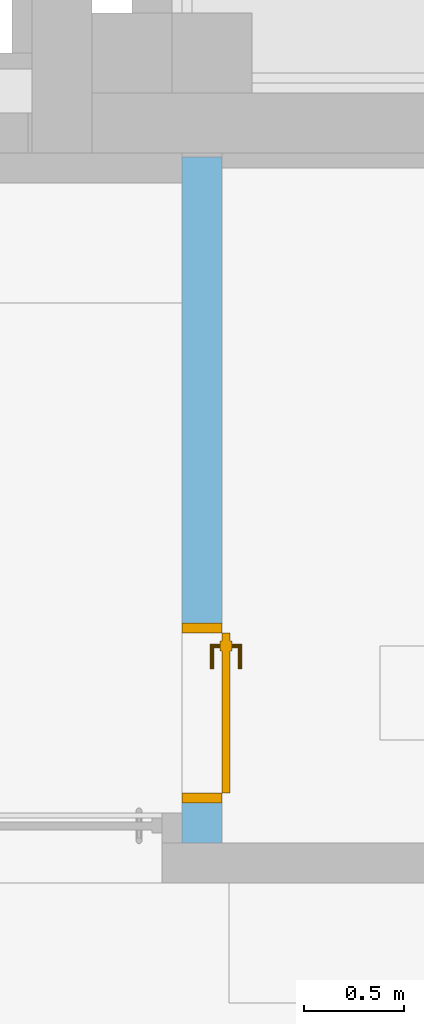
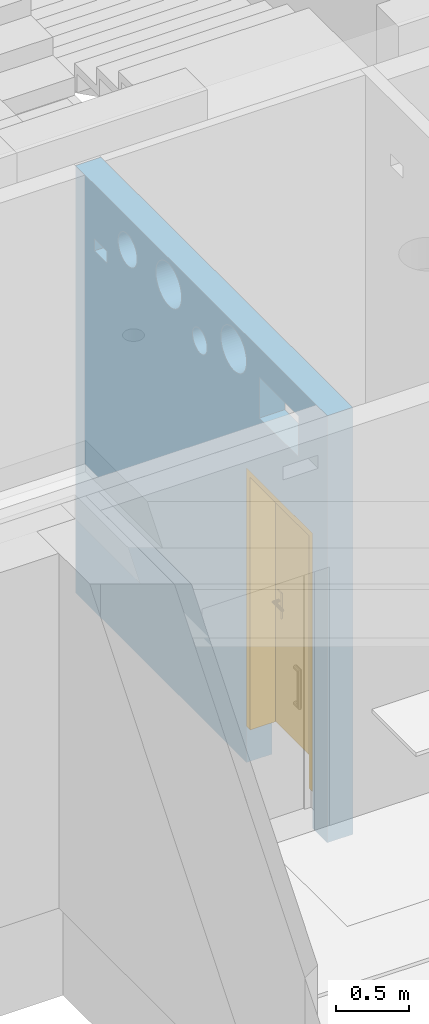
# One storey, part 69 of 140: 1 door, 7 openings, plus 1 element that does not belong to this part.
"""IFC4 building model written with IfcOpenShell, lengths in metres."""

from ifc_helpers import new_model, entity, si_unit, converted_unit, derived_unit, frame, frame_2d, origin, origin_with_axes, place, context, subcontext, project, spatial, polyline, rectangle, outline, extrude, closed_shell, open_shell, surface_model, source, transform, mapped, material, layer, layer_set, layer_usage, type_object, element, fill, save


model = new_model("IFC4")

# Units and contexts
model_context = context("Model", 3, precision=1e-05, world=origin())
body_context = subcontext(model_context, "Body", "Model", "MODEL_VIEW")
ifc_project = project(units=[si_unit("LENGTHUNIT", "METRE"), si_unit("AREAUNIT", "SQUARE_METRE"), si_unit("VOLUMEUNIT", "CUBIC_METRE"), si_unit("MASSUNIT", "GRAM", prefix="KILO"), converted_unit("PLANEANGLEUNIT", "DEGREE", entity("IfcPlaneAngleMeasure", 0.0174532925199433), si_unit("PLANEANGLEUNIT", "RADIAN"), dimensions=[0, 0, 0, 0, 0, 0, 0]), derived_unit("THERMALTRANSMITTANCEUNIT", [(si_unit("POWERUNIT", "WATT"), 1), (si_unit("THERMODYNAMICTEMPERATUREUNIT", "KELVIN"), -1), (si_unit("LENGTHUNIT", "METRE"), -2)]), derived_unit("VOLUMETRICFLOWRATEUNIT", [(si_unit("LENGTHUNIT", "METRE"), 3), (converted_unit("TIMEUNIT", "hour", entity("IfcTimeMeasure", 3600.0), si_unit("TIMEUNIT", "SECOND"), dimensions=[0, 0, 1, 0, 0, 0, 0]), -1), (si_unit("LENGTHUNIT", "METRE"), -1)])], contexts=[model_context])

# Site, building, storey
site_placement = place(None, origin())
site = spatial("IfcSite", under=ifc_project, at=site_placement, Name="3. ASŘ", CompositionType="ELEMENT")
building_placement = place(site_placement, origin())
building = spatial("IfcBuilding", under=site, at=building_placement, Name="Pavilon C", CompositionType="ELEMENT")
storey_placement = place(building_placement, origin())
storey = spatial("IfcBuildingStorey", under=building, at=storey_placement, Name="Půdorys 1.NP", CompositionType="ELEMENT", Elevation=0.0)

# Wall, openings, door
ifc_material = material(Name="ZELEZOBETONOVÁ KCE")
ifc_layer = layer(ifc_material, 0.2)
ifc_layer_set = layer_set([ifc_layer])
ifc_layer_usage = layer_usage(ifc_layer_set, "AXIS2", "POSITIVE", 0.0)
wall_placement = place(storey_placement, frame((31.3, -7.95000000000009, -0.3), z_axis=(0.0, 0.0, 1.0), x_axis=(-1.06063522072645e-15, 1.0, 0.0)))
wall = element("IfcWall", 1, at=wall_placement, inside=storey, material=ifc_layer_usage, Name="ZELEZOBETONOVÁ KCE", context=body_context, shape_type="SweptSolid", body=[
    extrude(rectangle(XDim=3.43, YDim=0.2, at=frame_2d((1.715, 0.1), x_axis=(1.0, 0.0))), origin_with_axes(), (0.0, 0.0, 1.0), 3.55),
])
opening_1_placement = place(wall_placement, frame((0.199999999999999, -2.12127044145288e-16, 0.0), z_axis=(9.9475983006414e-16, 1.0, 0.0), x_axis=(0.0, 0.0, 1.0)))
opening_1 = element("IfcOpeningElement", 2, at=opening_1_placement, cuts=wall, Name="Dveřní otvor", ObjectType="Opening", context=body_context, shape_type="SweptSolid", body=[
    extrude(outline(polyline([(0.0, 0.9), (2.45, 0.9), (2.45, 0.0), (0.0, 0.0), (0.0, 0.9)])), origin_with_axes(), (0.0, 0.0, 1.0), 0.2),
])
opening_2_placement = place(wall_placement, frame((2.33500000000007, 0.200000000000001, 3.155), z_axis=(0.0, -1.0, 0.0), x_axis=(0.0, 0.0, 1.0)))
element("IfcOpeningElement", 3, at=opening_2_placement, cuts=wall, Name="VZT", ObjectType="Opening", context=body_context, shape_type="SweptSolid", body=[
    extrude(outline(polyline([(0.174999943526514, 0.0), (0.15670746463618, 0.000958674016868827), (0.138615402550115, 0.00382418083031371), (0.120921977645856, 0.00856512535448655), (0.103821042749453, 0.0151295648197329), (0.0874999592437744, 0.0234455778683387), (0.0721375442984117, 0.033422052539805), (0.0579021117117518, 0.0449496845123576), (0.0449496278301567, 0.0579021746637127), (0.0334220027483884, 0.0721376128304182), (0.02344553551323, 0.0875000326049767), (0.0151295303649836, 0.10382112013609), (0.00856509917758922, 0.120922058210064), (0.00382416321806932, 0.138615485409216), (0.000958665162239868, 0.156707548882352), (0.0, 0.175000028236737), (0.000958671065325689, 0.193292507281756), (0.00382417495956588, 0.211384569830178), (0.00856511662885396, 0.229077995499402), (0.0151295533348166, 0.246178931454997), (0.0234455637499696, 0.262500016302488), (0.0334220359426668, 0.277862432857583), (0.0449496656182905, 0.292097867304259), (0.0579021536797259, 0.305050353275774), (0.072137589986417, 0.316577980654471), (0.087500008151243, 0.3265544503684), (0.103821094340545, 0.334870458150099), (0.120922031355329, 0.341434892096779), (0.138615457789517, 0.346175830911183), (0.156707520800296, 0.349041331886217), (0.174999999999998, 0.35), (0.1932924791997, 0.349041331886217), (0.211384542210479, 0.346175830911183), (0.229077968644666, 0.341434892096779), (0.24617890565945, 0.334870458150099), (0.262499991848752, 0.3265544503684), (0.277862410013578, 0.316577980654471), (0.29209784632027, 0.305050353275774), (0.305050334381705, 0.292097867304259), (0.316577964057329, 0.277862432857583), (0.326554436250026, 0.262500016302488), (0.334870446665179, 0.246178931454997), (0.341434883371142, 0.229077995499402), (0.34617582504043, 0.211384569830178), (0.34904132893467, 0.193292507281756), (0.349999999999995, 0.175000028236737), (0.349041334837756, 0.156707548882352), (0.346175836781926, 0.138615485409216), (0.341434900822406, 0.120922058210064), (0.334870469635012, 0.10382112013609), (0.326554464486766, 0.0875000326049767), (0.316577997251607, 0.0721376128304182), (0.305050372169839, 0.0579021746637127), (0.292097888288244, 0.0449496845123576), (0.277862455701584, 0.033422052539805), (0.262500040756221, 0.0234455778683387), (0.246178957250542, 0.0151295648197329), (0.229078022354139, 0.00856512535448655), (0.21138459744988, 0.00382418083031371), (0.193292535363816, 0.000958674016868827), (0.174999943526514, 0.0)])), origin_with_axes(), (0.0, 0.0, 1.0), 0.2),
])
opening_3_placement = place(wall_placement, frame((1.45000000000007, 0.200000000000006, 3.155), z_axis=(-1.13686837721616e-15, -1.0, 0.0), x_axis=(0.0, 0.0, 1.0)))
element("IfcOpeningElement", 4, at=opening_3_placement, cuts=wall, Name="VZT", ObjectType="Opening", context=body_context, shape_type="SweptSolid", body=[
    extrude(outline(polyline([(0.174999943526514, 0.0), (0.15670746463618, 0.000958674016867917), (0.138615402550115, 0.00382418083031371), (0.120921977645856, 0.00856512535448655), (0.103821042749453, 0.0151295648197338), (0.0874999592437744, 0.0234455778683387), (0.0721375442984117, 0.033422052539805), (0.0579021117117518, 0.0449496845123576), (0.0449496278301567, 0.0579021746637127), (0.0334220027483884, 0.0721376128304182), (0.02344553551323, 0.0875000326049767), (0.0151295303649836, 0.10382112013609), (0.00856509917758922, 0.120922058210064), (0.00382416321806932, 0.138615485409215), (0.000958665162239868, 0.156707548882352), (0.0, 0.175000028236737), (0.000958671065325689, 0.193292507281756), (0.00382417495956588, 0.211384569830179), (0.00856511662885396, 0.229077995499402), (0.0151295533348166, 0.246178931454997), (0.0234455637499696, 0.262500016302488), (0.0334220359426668, 0.277862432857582), (0.0449496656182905, 0.292097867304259), (0.0579021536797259, 0.305050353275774), (0.072137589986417, 0.316577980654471), (0.087500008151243, 0.3265544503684), (0.103821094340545, 0.3348704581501), (0.120922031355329, 0.341434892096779), (0.138615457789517, 0.346175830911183), (0.156707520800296, 0.349041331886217), (0.174999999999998, 0.35), (0.1932924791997, 0.349041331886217), (0.211384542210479, 0.346175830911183), (0.229077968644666, 0.341434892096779), (0.24617890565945, 0.3348704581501), (0.262499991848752, 0.3265544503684), (0.277862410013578, 0.316577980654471), (0.29209784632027, 0.305050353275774), (0.305050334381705, 0.292097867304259), (0.316577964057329, 0.277862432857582), (0.326554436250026, 0.262500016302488), (0.334870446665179, 0.246178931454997), (0.341434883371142, 0.229077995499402), (0.34617582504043, 0.211384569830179), (0.34904132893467, 0.193292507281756), (0.349999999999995, 0.175000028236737), (0.349041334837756, 0.156707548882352), (0.346175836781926, 0.138615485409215), (0.341434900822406, 0.120922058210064), (0.334870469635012, 0.10382112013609), (0.326554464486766, 0.0875000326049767), (0.316577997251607, 0.0721376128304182), (0.305050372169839, 0.0579021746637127), (0.292097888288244, 0.0449496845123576), (0.277862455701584, 0.033422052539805), (0.262500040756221, 0.0234455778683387), (0.246178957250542, 0.0151295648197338), (0.229078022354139, 0.00856512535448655), (0.21138459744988, 0.00382418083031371), (0.193292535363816, 0.000958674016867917), (0.174999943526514, 0.0)])), origin_with_axes(), (0.0, 0.0, 1.0), 0.2),
])
opening_4_placement = place(wall_placement, frame((1.83551964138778, 0.199999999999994, 3.02), z_axis=(-1.13686837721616e-15, -1.0, 0.0), x_axis=(0.0, 0.0, 1.0)))
element("IfcOpeningElement", 5, at=opening_4_placement, cuts=wall, Name="ZTI", ObjectType="Opening", context=body_context, shape_type="SweptSolid", body=[
    extrude(outline(polyline([(0.0999999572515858, 0.0), (0.0895471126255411, 0.00054781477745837), (0.079208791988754, 0.00218524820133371), (0.0690982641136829, 0.00489436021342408), (0.059326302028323, 0.00864546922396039), (0.0499999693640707, 0.0133974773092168), (0.0412214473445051, 0.0190983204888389), (0.0330869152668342, 0.0256855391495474), (0.0256854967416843, 0.0330869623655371), (0.0190982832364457, 0.0412214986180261), (0.0133974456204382, 0.0500000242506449), (0.00864544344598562, 0.059326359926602), (0.00489434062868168, 0.0690983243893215), (0.00218523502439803, 0.0792088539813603), (0.000547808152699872, 0.0895471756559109), (0.0, 0.100000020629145), (0.000547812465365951, 0.110452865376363), (0.00218524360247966, 0.120791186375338), (0.00489435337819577, 0.130901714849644), (0.00864546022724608, 0.140673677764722), (0.0133974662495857, 0.150000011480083), (0.019098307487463, 0.158778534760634), (0.0256855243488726, 0.166913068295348), (0.0330869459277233, 0.174314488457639), (0.041221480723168, 0.180901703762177), (0.0500000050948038, 0.186602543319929), (0.0593263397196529, 0.191354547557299), (0.0690983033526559, 0.19510565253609), (0.0792088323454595, 0.197814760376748), (0.089547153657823, 0.199452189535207), (0.0999999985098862, 0.2), (0.110452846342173, 0.199452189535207), (0.120791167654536, 0.197814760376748), (0.13090169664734, 0.19510565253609), (0.140673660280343, 0.191354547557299), (0.149999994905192, 0.186602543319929), (0.158778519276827, 0.180901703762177), (0.166913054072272, 0.174314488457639), (0.174314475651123, 0.166913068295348), (0.180901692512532, 0.158778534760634), (0.18660253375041, 0.150000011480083), (0.191354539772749, 0.140673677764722), (0.1951056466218, 0.130901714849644), (0.197814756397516, 0.120791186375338), (0.19945218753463, 0.110452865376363), (0.199999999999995, 0.100000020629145), (0.199452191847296, 0.0895471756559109), (0.197814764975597, 0.0792088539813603), (0.195105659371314, 0.0690983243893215), (0.19135455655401, 0.059326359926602), (0.186602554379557, 0.0500000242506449), (0.18090171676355, 0.0412214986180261), (0.174314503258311, 0.0330869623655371), (0.166913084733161, 0.0256855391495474), (0.15877855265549, 0.0190983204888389), (0.150000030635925, 0.0133974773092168), (0.140673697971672, 0.00864546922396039), (0.130901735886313, 0.00489436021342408), (0.120791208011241, 0.00218524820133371), (0.110452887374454, 0.00054781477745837), (0.0999999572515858, 0.0)])), origin_with_axes(), (0.0, 0.0, 1.0), 0.2),
])
opening_5_placement = place(wall_placement, frame((2.84939145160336, 0.200000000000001, 3.15), z_axis=(0.0, -1.0, 0.0), x_axis=(0.0, 0.0, 1.0)))
element("IfcOpeningElement", 6, at=opening_5_placement, cuts=wall, Name="VZT", ObjectType="Opening", context=body_context, shape_type="SweptSolid", body=[
    extrude(outline(polyline([(0.129999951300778, 0.0), (0.116411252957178, 0.000712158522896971), (0.102971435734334, 0.00284082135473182), (0.0898277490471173, 0.00636266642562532), (0.0771241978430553, 0.0112391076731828), (0.0649999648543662, 0.0174167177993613), (0.0535878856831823, 0.024827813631), (0.0430129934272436, 0.0333911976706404), (0.0333911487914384, 0.043013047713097), (0.0248277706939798, 0.0535879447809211), (0.0174166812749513, 0.065000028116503), (0.0112390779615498, 0.0771242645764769), (0.00636264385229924, 0.0898278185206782), (0.0028408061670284, 0.102971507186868), (0.000712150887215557, 0.116411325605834), (0.0, 0.130000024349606), (0.000712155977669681, 0.143588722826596), (0.00284081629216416, 0.157028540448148), (0.0063626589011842, 0.170172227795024), (0.0112390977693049, 0.182875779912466), (0.0174167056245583, 0.195000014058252), (0.0248277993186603, 0.206412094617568), (0.0333911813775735, 0.216986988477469), (0.0430130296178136, 0.226608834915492), (0.0535879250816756, 0.235172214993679), (0.0650000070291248, 0.242583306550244), (0.0771242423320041, 0.248760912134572), (0.0898277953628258, 0.253637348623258), (0.102971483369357, 0.257159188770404), (0.116411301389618, 0.259287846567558), (0.129999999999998, 0.26), (0.143588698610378, 0.259287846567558), (0.157028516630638, 0.257159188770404), (0.17017220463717, 0.253637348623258), (0.182875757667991, 0.248760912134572), (0.194999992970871, 0.242583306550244), (0.20641207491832, 0.235172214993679), (0.216986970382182, 0.226608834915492), (0.226608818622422, 0.216986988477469), (0.235172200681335, 0.206412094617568), (0.242583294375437, 0.195000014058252), (0.248760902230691, 0.182875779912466), (0.253637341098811, 0.170172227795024), (0.257159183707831, 0.157028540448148), (0.259287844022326, 0.143588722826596), (0.259999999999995, 0.130000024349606), (0.25928784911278, 0.116411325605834), (0.257159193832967, 0.102971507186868), (0.253637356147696, 0.0898278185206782), (0.248760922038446, 0.0771242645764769), (0.242583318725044, 0.065000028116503), (0.235172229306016, 0.0535879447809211), (0.226608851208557, 0.043013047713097), (0.216987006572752, 0.0333911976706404), (0.206412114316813, 0.024827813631), (0.195000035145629, 0.0174167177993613), (0.18287580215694, 0.0112391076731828), (0.170172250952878, 0.00636266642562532), (0.157028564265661, 0.00284082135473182), (0.143588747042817, 0.000712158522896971), (0.129999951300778, 0.0)])), origin_with_axes(), (0.0, 0.0, 1.0), 0.2),
])
opening_6_placement = place(wall_placement, frame((2.9993914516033, -6.819239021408e-15, 3.0), z_axis=(0.0, 1.0, 0.0), x_axis=(0.0, 0.0, 1.0)))
element("IfcOpeningElement", 7, at=opening_6_placement, cuts=wall, Name="ZTI", ObjectType="Opening", context=body_context, shape_type="SweptSolid", body=[
    extrude(outline(polyline([(0.0, 0.17), (0.1, 0.17), (0.1, 0.0), (0.0, 0.0), (0.0, 0.17)])), origin_with_axes(), (0.0, 0.0, 1.0), 0.2),
])
opening_7_placement = place(wall_placement, frame((0.395000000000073, 3.95988159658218e-14, 2.97), z_axis=(1.13686837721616e-15, 1.0, 0.0), x_axis=(0.0, 0.0, 1.0)))
element("IfcOpeningElement", 8, at=opening_7_placement, cuts=wall, Name="VZT+ZTI", ObjectType="Opening", context=body_context, shape_type="SweptSolid", body=[
    extrude(outline(polyline([(0.0, 0.53), (0.34, 0.53), (0.34, 0.0), (0.0, 0.0), (0.0, 0.53)])), origin_with_axes(), (0.0, 0.0, 1.0), 0.2),
])
door_type = type_object("IfcDoorType", Name="II.D01", OperationType="NOTDEFINED", ParameterTakesPrecedence=False, PredefinedType="DOOR")
shared_shape = source(origin_with_axes(), body_context, "Body", "SurfaceModel", [
    surface_model("IfcShellBasedSurfaceModel", [(0.0, 0.2, 2.149), (0.0, 0.2, -5.6843418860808e-17), (0.05, 0.2, -5.6843418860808e-17), (0.05, 0.2, 2.149), (0.0, 0.0, -5.6843418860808e-17), (0.0, 2.55795384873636e-16, 2.149), (0.05, 2.55795384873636e-16, 2.149), (0.05, 0.0, -5.6843418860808e-17)], [closed_shell([[[0, 1, 2, 3]], [[4, 5, 6, 7]], [[1, 0, 5, 4]], [[2, 1, 4, 7]], [[3, 2, 7, 6]], [[0, 3, 6, 5]]], orient=[[False], [False], [False], [False], [False], [False]])]),
    surface_model("IfcShellBasedSurfaceModel", [(0.85, 0.2, 2.149), (0.85, 0.2, -5.6843418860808e-17), (0.9, 0.2, -5.6843418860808e-17), (0.9, 0.2, 2.149), (0.85, 0.0, -5.6843418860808e-17), (0.85, 2.55795384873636e-16, 2.149), (0.9, 2.55795384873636e-16, 2.149), (0.9, 0.0, -5.6843418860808e-17)], [closed_shell([[[0, 1, 2, 3]], [[4, 5, 6, 7]], [[1, 0, 5, 4]], [[2, 1, 4, 7]], [[3, 2, 7, 6]], [[0, 3, 6, 5]]], orient=[[False], [False], [False], [False], [False], [False]])]),
    surface_model("IfcShellBasedSurfaceModel", [(0.05, 0.2, 2.149), (0.05, 0.2, 2.099), (0.85, 0.2, 2.099), (0.85, 0.2, 2.149), (0.05, 2.55795384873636e-16, 2.099), (0.05, 2.55795384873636e-16, 2.149), (0.85, 2.55795384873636e-16, 2.149), (0.85, 2.55795384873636e-16, 2.099)], [closed_shell([[[0, 1, 2, 3]], [[4, 5, 6, 7]], [[1, 0, 5, 4]], [[2, 1, 4, 7]], [[3, 2, 7, 6]], [[0, 3, 6, 5]]], orient=[[False], [False], [False], [False], [False], [False]])]),
    surface_model("IfcShellBasedSurfaceModel", [(0.05, 0.24, 2.099), (0.05, 0.24, -5.6843418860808e-17), (0.85, 0.24, -5.6843418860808e-17), (0.85, 0.24, 2.099), (0.05, 0.2, -5.6843418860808e-17), (0.05, 0.2, 2.099), (0.85, 0.2, 2.099), (0.85, 0.2, -5.6843418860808e-17)], [closed_shell([[[0, 1, 2, 3]], [[4, 5, 6, 7]], [[1, 0, 5, 4]], [[2, 1, 4, 7]], [[3, 2, 7, 6]], [[0, 3, 6, 5]]], orient=[[False], [False], [False], [False], [False], [False]])]),
    surface_model("IfcShellBasedSurfaceModel", [(0.76, 0.2, 1.125), (0.76, 0.2, 0.91), (0.81, 0.2, 0.91), (0.81, 0.2, 1.125), (0.76, 0.19, 0.91), (0.76, 0.19, 1.125), (0.81, 0.19, 1.125), (0.81, 0.19, 0.91)], [closed_shell([[[0, 1, 2, 3]], [[4, 5, 6, 7]], [[1, 0, 5, 4]], [[2, 1, 4, 7]], [[3, 2, 7, 6]], [[0, 3, 6, 5]]], orient=[[False], [False], [False], [False], [False], [False]])]),
    surface_model("IfcShellBasedSurfaceModel", [(0.785, 0.19, 1.06), (0.78, 0.19, 1.05866025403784), (0.776339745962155, 0.19, 1.055), (0.775, 0.19, 1.05), (0.776339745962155, 0.19, 1.045), (0.78, 0.19, 1.04133974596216), (0.785, 0.19, 1.04), (0.79, 0.19, 1.04133974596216), (0.793660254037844, 0.19, 1.045), (0.795, 0.19, 1.05), (0.793660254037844, 0.19, 1.055), (0.79, 0.19, 1.05866025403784), (0.79, 0.145, 1.05866025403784), (0.785, 0.15, 1.06), (0.793660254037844, 0.141339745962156, 1.055), (0.795, 0.14, 1.05), (0.793660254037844, 0.141339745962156, 1.045), (0.79, 0.145, 1.04133974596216), (0.785, 0.15, 1.04), (0.78, 0.155, 1.04133974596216), (0.776339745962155, 0.158660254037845, 1.045), (0.775, 0.16, 1.05), (0.776339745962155, 0.158660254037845, 1.055), (0.78, 0.155, 1.05866025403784), (0.67, 0.145, 1.05866025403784), (0.67, 0.15, 1.06), (0.67, 0.141339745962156, 1.055), (0.67, 0.14, 1.05), (0.67, 0.141339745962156, 1.045), (0.67, 0.145, 1.04133974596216), (0.67, 0.15, 1.04), (0.67, 0.155, 1.04133974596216), (0.67, 0.158660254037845, 1.045), (0.67, 0.16, 1.05), (0.67, 0.158660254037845, 1.055), (0.67, 0.155, 1.05866025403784)], [open_shell([[[0, 1, 2, 3, 4, 5, 6, 7, 8, 9, 10, 11]], [[0, 11, 12, 13]], [[11, 10, 14, 12]], [[10, 9, 15, 14]], [[9, 8, 16, 15]], [[8, 7, 17, 16]], [[7, 6, 18, 17]], [[6, 5, 19, 18]], [[5, 4, 20, 19]], [[4, 3, 21, 20]], [[3, 2, 22, 21]], [[2, 1, 23, 22]], [[1, 0, 13, 23]], [[13, 12, 24, 25]], [[12, 14, 26, 24]], [[14, 15, 27, 26]], [[15, 16, 28, 27]], [[16, 17, 29, 28]], [[17, 18, 30, 29]], [[18, 19, 31, 30]], [[19, 20, 32, 31]], [[20, 21, 33, 32]], [[21, 22, 34, 33]], [[22, 23, 35, 34]], [[23, 13, 25, 35]]], orient=[[False], [False], [False], [False], [False], [False], [False], [False], [False], [False], [False], [False], [False], [False], [False], [False], [False], [False], [False], [False], [False], [False], [False], [False], [False]])]),
    surface_model("IfcShellBasedSurfaceModel", [(0.76, 0.24, 1.125), (0.81, 0.24, 1.125), (0.81, 0.24, 0.91), (0.76, 0.24, 0.91), (0.76, 0.25, 0.91), (0.81, 0.25, 0.91), (0.81, 0.25, 1.125), (0.76, 0.25, 1.125)], [closed_shell([[[0, 1, 2, 3]], [[4, 5, 6, 7]], [[3, 4, 7, 0]], [[2, 5, 4, 3]], [[1, 6, 5, 2]], [[0, 7, 6, 1]]], orient=[[False], [False], [False], [False], [False], [False]])]),
    surface_model("IfcShellBasedSurfaceModel", [(0.785, 0.25, 1.06), (0.79, 0.25, 1.05866025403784), (0.793660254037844, 0.25, 1.055), (0.795, 0.25, 1.05), (0.793660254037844, 0.25, 1.045), (0.79, 0.25, 1.04133974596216), (0.785, 0.25, 1.04), (0.78, 0.25, 1.04133974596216), (0.776339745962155, 0.25, 1.045), (0.775, 0.25, 1.05), (0.776339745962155, 0.25, 1.055), (0.78, 0.25, 1.05866025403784), (0.785, 0.29, 1.06), (0.79, 0.295, 1.05866025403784), (0.793660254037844, 0.298660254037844, 1.055), (0.795, 0.3, 1.05), (0.793660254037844, 0.298660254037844, 1.045), (0.79, 0.295, 1.04133974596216), (0.785, 0.29, 1.04), (0.78, 0.285, 1.04133974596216), (0.776339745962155, 0.281339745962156, 1.045), (0.775, 0.28, 1.05), (0.776339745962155, 0.281339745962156, 1.055), (0.78, 0.285, 1.05866025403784), (0.67, 0.29, 1.06), (0.67, 0.295, 1.05866025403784), (0.67, 0.298660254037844, 1.055), (0.67, 0.3, 1.05), (0.67, 0.298660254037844, 1.045), (0.67, 0.295, 1.04133974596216), (0.67, 0.29, 1.04), (0.67, 0.285, 1.04133974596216), (0.67, 0.281339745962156, 1.045), (0.67, 0.28, 1.05), (0.67, 0.281339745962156, 1.055), (0.67, 0.285, 1.05866025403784)], [open_shell([[[0, 1, 2, 3, 4, 5, 6, 7, 8, 9, 10, 11]], [[0, 12, 13, 1]], [[1, 13, 14, 2]], [[2, 14, 15, 3]], [[3, 15, 16, 4]], [[4, 16, 17, 5]], [[5, 17, 18, 6]], [[6, 18, 19, 7]], [[7, 19, 20, 8]], [[8, 20, 21, 9]], [[9, 21, 22, 10]], [[10, 22, 23, 11]], [[11, 23, 12, 0]], [[12, 24, 25, 13]], [[13, 25, 26, 14]], [[14, 26, 27, 15]], [[15, 27, 28, 16]], [[16, 28, 29, 17]], [[17, 29, 30, 18]], [[18, 30, 31, 19]], [[19, 31, 32, 20]], [[20, 32, 33, 21]], [[21, 33, 34, 22]], [[22, 34, 35, 23]], [[23, 35, 24, 12]]], orient=[[False], [False], [False], [False], [False], [False], [False], [False], [False], [False], [False], [False], [False], [False], [False], [False], [False], [False], [False], [False], [False], [False], [False], [False], [False]])]),
])
door_placement = place(opening_1_placement, frame((0.301, 1.81898940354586e-15, 0.200000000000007), z_axis=(1.0, 0.0, 0.0), x_axis=(0.0, 1.0, -3.10804750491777e-16)))
door = element("IfcDoor", 9, at=door_placement, inside=storey, type_object=door_type, Name="II.D01", OverallHeight=2.45, OverallWidth=0.9, context=body_context, shape_type="MappedRepresentation", body=[
    mapped(shared_shape, transform((0.0, 0.0, 0.0), x_axis=(1.0, 0.0, 0.0), y_axis=(0.0, -1.0, 0.0), z_axis=(0.0, 0.0, 1.0), scale=1.0)),
])
fill(opening_1, door)

save(model, "model.ifc")
